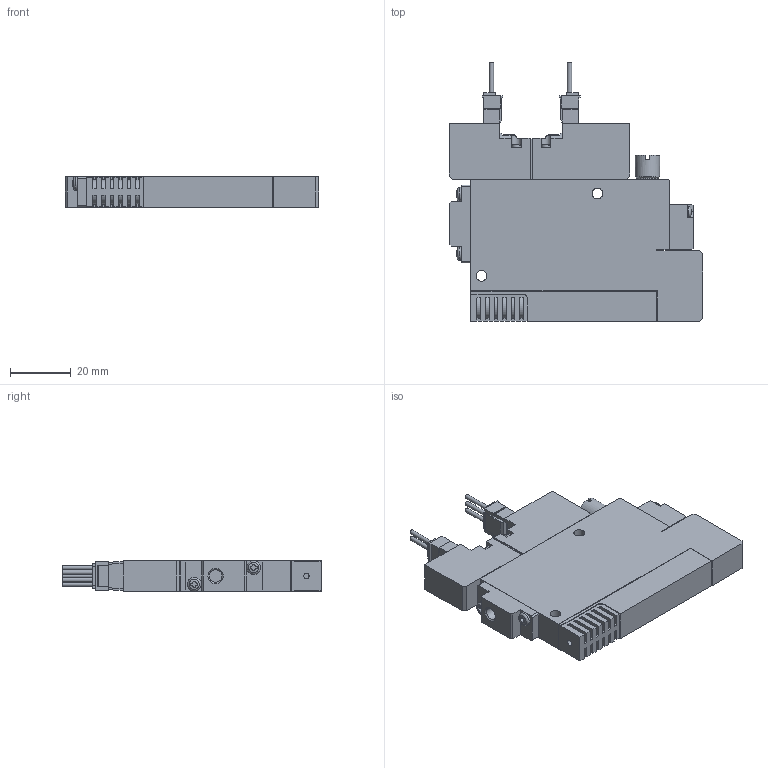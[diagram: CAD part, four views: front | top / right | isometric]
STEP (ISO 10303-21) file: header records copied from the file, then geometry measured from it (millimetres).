
FILE_DESCRIPTION(('STEP AP203'),'1');
FILE_NAME('5WS_3D.stp','2024-09-04T23:21:06',(' '),(' '),'Spatial InterOp 3D',' ',' ');
FILE_SCHEMA(('CONFIG_CONTROL_DESIGN'));
Length unit declared in the file: millimetre
Products named in the file (5): BSC1S※※ZZ※5WS; Solenoid valve W; Pressure Sensor ZZ; Unit-S; BaseSS10R
Assembly tree (4 placements, depth 2):
  BSC1S※※ZZ※5WS
    Solenoid valve W
    Pressure Sensor ZZ
    Unit-S
    BaseSS10R
Bounding box: 83.05 x 85.05 x 10 mm (x, y, z)
Volume: 42949.8 mm3; surface area: 17907.6 mm2
Topology: 4 solids, 4 shells, 449 faces, 1230 edges, 815 vertices
Faces by surface type: plane 338, cylinder 99, sphere 4, torus 4, cone 4
Full cylindrical faces by diameter (mm): 1.4 x5, 1.8 x1, 3 x4, 3.5 x6, 4.134 x3, 4.5 x2, 5.5 x1, 7 x1, 7.7 x1, 8 x1
Entity records: 14414 total; most frequent: CARTESIAN_POINT 2856, ORIENTED_EDGE 2360, DIRECTION 2262, EDGE_CURVE 1180, LINE 926, VECTOR 926, VERTEX_POINT 802, AXIS2_PLACEMENT_3D 668
